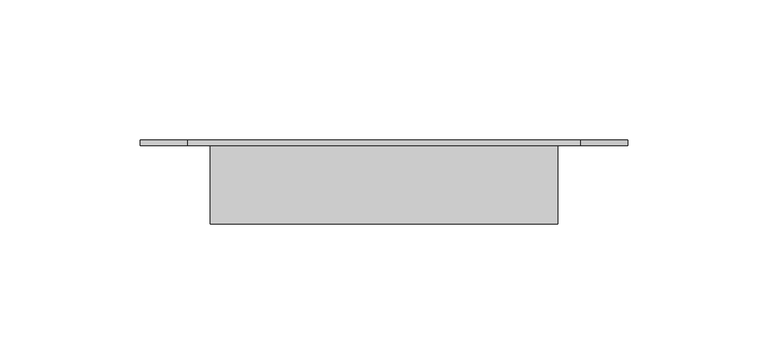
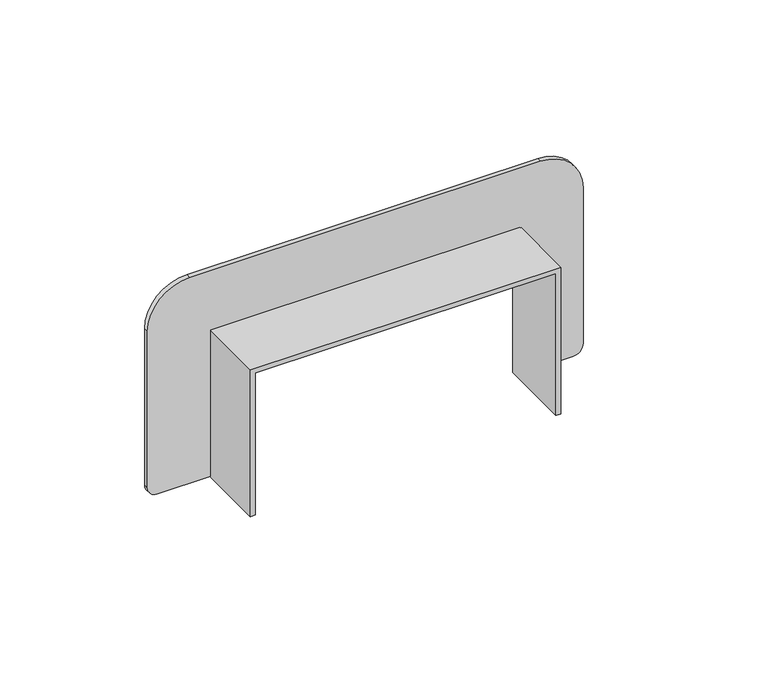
"""IFC4 building model written with IfcOpenShell, lengths in millimetres: duct fitting geometry, КНС_ПрямойВводВСтену_DKC : Прямой ввод в стену_DKC."""

from ifc_helpers import new_model, si_unit, point, frame, frame_2d, origin, place, context, project, spatial, polyline, circle_curve, trimmed, segment, composite_curve, outline, extrude, source, transform, mapped, element, save


def duct_fitting_65455c14(model_context):
    return source(origin(), model_context, "Body", "SweptSolid", [
        extrude(outline(composite_curve([segment(polyline([(-30.0, -62.0), (32.0, -62.0), (32.0, 62.0), (-30.0, 62.0), (-30.0, 83.0039239)]), True, "CONTINUOUS"), segment(trimmed(circle_curve(frame_2d((-26.0039239, 83.0039239)), 3.9960761), [point((-30.0, 83.0039239))], [point((-26.0039239, 87.0))], False, "CARTESIAN"), True, "CONTINUOUS"), segment(polyline([(-26.0039239, 87.0), (40.0, 87.0)]), True, "CONTINUOUS"), segment(trimmed(circle_curve(frame_2d((40.0, 70.0)), 17.0), [point((40.0, 87.0))], [point((57.0, 70.0))], False, "CARTESIAN"), True, "CONTINUOUS"), segment(polyline([(57.0, 70.0), (57.0, -70.0)]), True, "CONTINUOUS"), segment(trimmed(circle_curve(frame_2d((40.0, -70.0)), 17.0), [point((57.0, -70.0))], [point((40.0, -87.0))], False, "CARTESIAN"), True, "CONTINUOUS"), segment(polyline([(40.0, -87.0), (-26.0204043, -87.0)]), True, "CONTINUOUS"), segment(trimmed(circle_curve(frame_2d((-26.0204043, -83.0204043)), 3.9795957), [point((-26.0204043, -87.0))], [point((-30.0, -83.0204043))], False, "CARTESIAN"), True, "CONTINUOUS"), segment(polyline([(-30.0, -83.0204043), (-30.0, -62.0)]), True, "CONTINUOUS")], self_intersect=False)), frame((0.0, 28.0, 0.0), z_axis=(0.0, 1.0, 0.0), x_axis=(0.0, 0.0, 1.0)), (0.0, 0.0, 1.0), 2.0),
        extrude(outline(polyline([(-30.0, -60.0), (30.0, -60.0), (30.0, 60.0), (-30.0, 60.0), (-30.0, 62.0), (32.0, 62.0), (32.0, -62.0), (-30.0, -62.0), (-30.0, -60.0)])), frame((0.0, 0.0, 0.0), z_axis=(0.0, 1.0, 0.0), x_axis=(0.0, 0.0, 1.0)), (0.0, 0.0, 1.0), 30.0),
    ])


if __name__ == "__main__":
    model = new_model("IFC4")
    model_context = context("Model", 3, world=origin())
    ifc_project = project(units=[si_unit("LENGTHUNIT", "METRE", prefix="MILLI")], contexts=[model_context])
    site = spatial("IfcSite", under=ifc_project)
    building = spatial("IfcBuilding", under=site)
    placement = place(None, origin())
    duct_fitting_shape = duct_fitting_65455c14(model_context)
    element("IfcDuctFitting", 1, ObjectType="КНС_ПрямойВводВСтену_DKC : Прямой ввод в стену_DKC", at=placement, inside=building, context=model_context, shape_type="MappedRepresentation", body=[
        mapped(duct_fitting_shape, transform((0.0, 0.0, 0.0), x_axis=(1.0, 0.0, 0.0), y_axis=(0.0, 1.0, 0.0), z_axis=(0.0, 0.0, 1.0))),
    ])
    save(model, "model.ifc")
